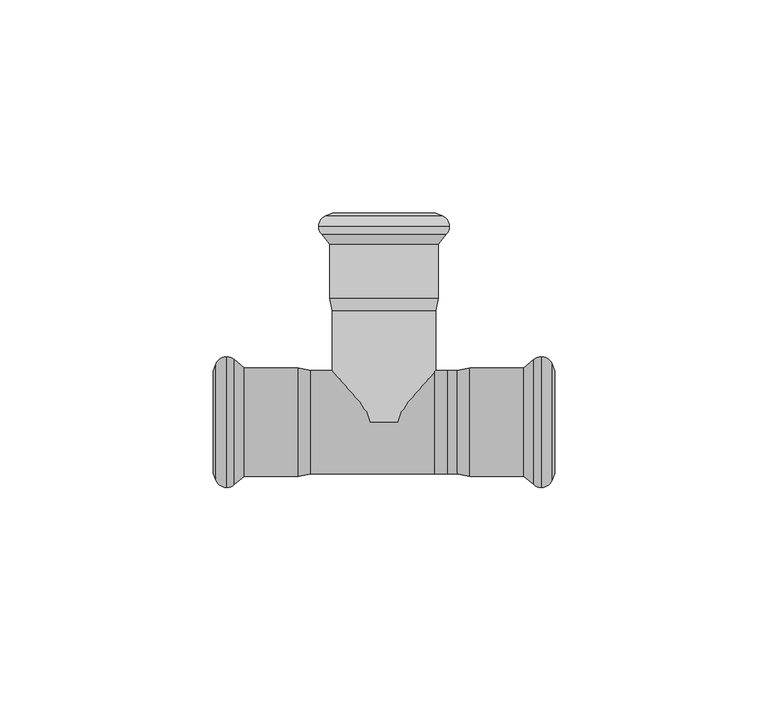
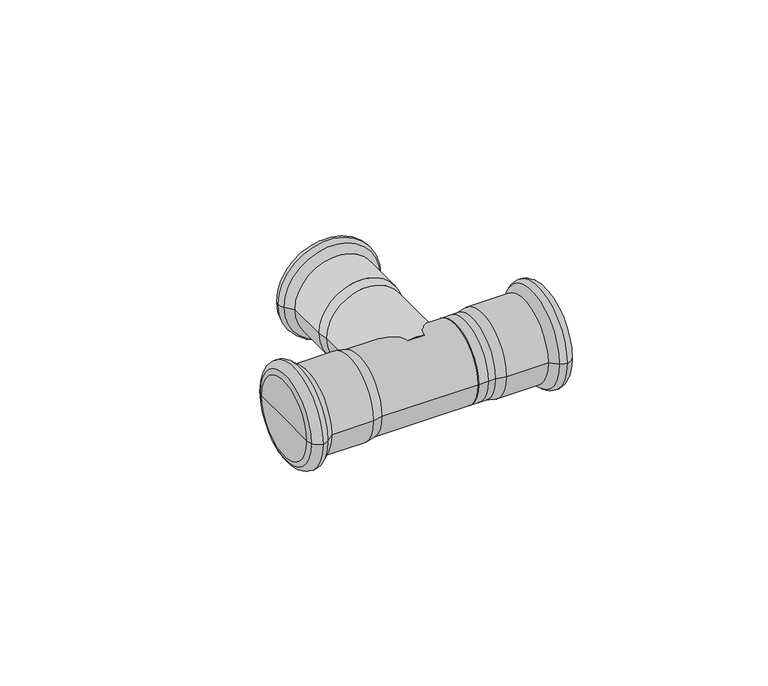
"""IFC4 building model written with IfcOpenShell, lengths in millimetres: pipe fitting geometry, KAN-therm Steel trójnik : KAN-therm Steel trójnik."""

from ifc_helpers import new_model, si_unit, point, frame, origin, place, context, project, spatial, polyline, circle_curve, ellipse_curve, trimmed, source, transform, mapped, element, save
from ifc_brep_helpers import plane_surface, cylinder_surface, revolved_surface, advanced_brep


def pipe_fitting_3d17be56(model_context):
    return source(origin(), model_context, "Body", "AdvancedBrep", [
        advanced_brep(
        [(35.0922627, -14.6370225, 0.0), (35.0922627, 14.6370225, 0.0), (36.8921278, 15.325, 0.0), (36.8921278, -15.325, 0.0), (32.7838092, -12.7, 0.0), (32.7838092, 12.7, 0.0), (20.1180407, -12.7, 0.0), (20.1180407, 12.7, 0.0), (17.2, -12.1, 0.0), (17.2, 12.1, 0.0), (14.95, -12.1, 0.0), (14.95, 12.1, 0.0), (11.95, 0.0, 0.0), (11.95, 12.1, 0.0), (11.95, -12.1, 0.0), (40.0, -11.9880302, 0.0), (40.0, 11.9880302, 0.0), (40.0, 0.0, 0.0), (39.432052, -13.5484544, 0.0), (39.432052, 13.5484544, 0.0)],
        [
            (0, 1, circle_curve(frame((35.0922627, 0.0, 0.0), z_axis=(1.0, 0.0, 0.0), x_axis=(0.0, 1.0, 0.0)), 14.6370225)),
            (1, 2, circle_curve(frame((36.8935049, 12.6230333, 0.0), z_axis=(0.0, 0.0, -1.0), x_axis=(1.0, 0.0, 0.0)), 2.701967)),
            (2, 3, circle_curve(frame((36.8921278, 0.0, 0.0), z_axis=(-1.0, 0.0, 0.0), x_axis=(0.0, 1.0, 0.0)), 15.325)),
            (3, 0, circle_curve(frame((36.8935049, -12.6230333, 0.0), z_axis=(0.0, 0.0, -1.0), x_axis=(1.0, 0.0, 0.0)), 2.701967)),
            (1, 0, circle_curve(frame((35.0922627, 0.0, 0.0), z_axis=(1.0, 0.0, 0.0), x_axis=(0.0, 1.0, 0.0)), 14.6370225)),
            (3, 2, circle_curve(frame((36.8921278, 0.0, 0.0), z_axis=(-1.0, 0.0, 0.0), x_axis=(0.0, 1.0, 0.0)), 15.325)),
            (4, 5, circle_curve(frame((32.7838092, 0.0, 0.0), z_axis=(1.0, 0.0, 0.0), x_axis=(0.0, 1.0, 0.0)), 12.7)),
            (5, 1),
            (0, 4),
            (5, 4, circle_curve(frame((32.7838092, 0.0, 0.0), z_axis=(1.0, 0.0, 0.0), x_axis=(0.0, 1.0, 0.0)), 12.7)),
            (6, 7, circle_curve(frame((20.1180407, 0.0, 0.0), z_axis=(1.0, 0.0, 0.0), x_axis=(0.0, 1.0, 0.0)), 12.7)),
            (7, 5),
            (4, 6),
            (7, 6, circle_curve(frame((20.1180407, 0.0, 0.0), z_axis=(1.0, 0.0, 0.0), x_axis=(0.0, 1.0, 0.0)), 12.7)),
            (8, 9, circle_curve(frame((17.2, 0.0, 0.0), z_axis=(1.0, 0.0, 0.0), x_axis=(0.0, 1.0, 0.0)), 12.1)),
            (9, 7),
            (6, 8),
            (9, 8, circle_curve(frame((17.2, 0.0, 0.0), z_axis=(1.0, 0.0, 0.0), x_axis=(0.0, 1.0, 0.0)), 12.1)),
            (10, 11, circle_curve(frame((14.95, 0.0, 0.0), z_axis=(1.0, 0.0, 0.0), x_axis=(0.0, 1.0, 0.0)), 12.1)),
            (11, 9),
            (8, 10),
            (11, 10, circle_curve(frame((14.95, 0.0, 0.0), z_axis=(1.0, 0.0, 0.0), x_axis=(0.0, 1.0, 0.0)), 12.1)),
            (12, 13),
            (13, 14, circle_curve(frame((11.95, 0.0, 0.0), z_axis=(-1.0, 0.0, 0.0), x_axis=(0.0, 1.0, 0.0)), 12.1)),
            (14, 12),
            (14, 13, circle_curve(frame((11.95, 0.0, 0.0), z_axis=(-1.0, 0.0, 0.0), x_axis=(0.0, 1.0, 0.0)), 12.1)),
            (15, 16, circle_curve(frame((40.0, 0.0, 0.0), z_axis=(1.0, 0.0, 0.0), x_axis=(0.0, 1.0, 0.0)), 11.9880302)),
            (16, 17),
            (17, 15),
            (16, 15, circle_curve(frame((40.0, 0.0, 0.0), z_axis=(1.0, 0.0, 0.0), x_axis=(0.0, 1.0, 0.0)), 11.9880302)),
            (18, 19, circle_curve(frame((39.432052, 0.0, 0.0), z_axis=(1.0, 0.0, 0.0), x_axis=(0.0, 1.0, 0.0)), 13.5484544)),
            (19, 16),
            (15, 18),
            (19, 18, circle_curve(frame((39.432052, 0.0, 0.0), z_axis=(1.0, 0.0, 0.0), x_axis=(0.0, 1.0, 0.0)), 13.5484544)),
            (2, 19, circle_curve(frame((36.89488, 12.6249993, 0.0), z_axis=(0.0, 0.0, -1.0), x_axis=(1.0, 0.0, 0.0)), 2.7000021)),
            (18, 3, circle_curve(frame((36.89488, -12.6249993, 0.0), z_axis=(0.0, 0.0, -1.0), x_axis=(1.0, 0.0, 0.0)), 2.7000021)),
            (13, 11),
            (10, 14),
        ],
        [
            revolved_surface(trimmed(ellipse_curve(frame((36.8935049, 12.6230333, 0.0), z_axis=(0.0, 0.0, 1.0), x_axis=(1.0, 0.0, 0.0)), 2.701967, 2.701967), [point((36.8921278, 15.325, 0.0))], [point((35.0922627, 14.6370225, 0.0))], True, "CARTESIAN"), (1993.0, 0.0, 0.0), (-1.0, 0.0, 0.0)),
            revolved_surface(polyline([(35.0922627, 14.6370225, 0.0), (32.7838092, 12.7, 0.0)]), (1993.0, 0.0, 0.0), (-1.0, 0.0, 0.0)),
            cylinder_surface(frame((1993.0, 0.0, 0.0), z_axis=(-1.0, 0.0, 0.0), x_axis=(0.0, 1.0, 0.0)), 12.7),
            revolved_surface(polyline([(20.1180407, 12.7, 0.0), (17.2, 12.1, 0.0)]), (1993.0, 0.0, 0.0), (-1.0, 0.0, 0.0)),
            cylinder_surface(frame((1993.0, 0.0, 0.0), z_axis=(-1.0, 0.0, 0.0), x_axis=(0.0, 1.0, 0.0)), 12.1),
            plane_surface(frame((11.95, 0.0, 0.0), z_axis=(-1.0, 0.0, 0.0), x_axis=(0.0, 1.0, 0.0))),
            plane_surface(frame((40.0, 0.0, 0.0), z_axis=(1.0, 0.0, 0.0), x_axis=(0.0, 1.0, 0.0))),
            revolved_surface(polyline([(40.0, 11.9880302, 0.0), (39.432052, 13.5484544, 0.0)]), (1993.0, 0.0, 0.0), (-1.0, 0.0, 0.0)),
            revolved_surface(trimmed(ellipse_curve(frame((36.89488, 12.6249993, 0.0), z_axis=(0.0, 0.0, 1.0), x_axis=(1.0, 0.0, 0.0)), 2.7000021, 2.7000021), [point((39.432052, 13.5484544, 0.0))], [point((36.8921278, 15.325, 0.0))], True, "CARTESIAN"), (1993.0, 0.0, 0.0), (-1.0, 0.0, 0.0)),
        ],
        [
            (0, [[1, 2, 3, 4]]),
            (0, [[5, -4, 6, -2]]),
            (1, [[7, 8, -1, 9]]),
            (1, [[10, -9, -5, -8]]),
            (2, [[11, 12, -7, 13]]),
            (2, [[14, -13, -10, -12]]),
            (3, [[15, 16, -11, 17]]),
            (3, [[18, -17, -14, -16]]),
            (4, [[19, 20, -15, 21]]),
            (4, [[22, -21, -18, -20]]),
            (5, [[23, 24, 25]]),
            (5, [[-25, 26, -23]]),
            (6, [[27, 28, 29]]),
            (6, [[30, -29, -28]]),
            (7, [[31, 32, -27, 33]]),
            (7, [[34, -33, -30, -32]]),
            (8, [[-3, 35, -31, 36]]),
            (8, [[-6, -36, -34, -35]]),
            (4, [[-24, 37, -19, 38]]),
            (4, [[-26, -38, -22, -37]]),
        ],
    ),
        advanced_brep(
        [(14.6370225, 44.0922627, 0.0), (-14.6370225, 44.0922627, 0.0), (-15.325, 45.8921278, 0.0), (15.325, 45.8921278, 0.0), (12.7, 41.7838092, 0.0), (-12.7, 41.7838092, 0.0), (12.7, 29.1180407, 0.0), (-12.7, 29.1180407, 0.0), (11.9880302, 49.0, 0.0), (-11.9880302, 49.0, 0.0), (0.0, 49.0, 0.0), (13.5484544, 48.432052, 0.0), (-13.5484544, 48.432052, 0.0), (12.1, 26.2, 0.0), (-12.1, 26.2, 0.0), (12.1, 0.0, 0.0), (-12.1, 0.0, 0.0), (0.0, 0.0, 0.0)],
        [
            (0, 1, circle_curve(frame((0.0, 44.0922627, 0.0), z_axis=(0.0, 1.0, 0.0), x_axis=(-1.0, 0.0, 0.0)), 14.6370225)),
            (1, 2, circle_curve(frame((-12.6230333, 45.8935049, 0.0), z_axis=(0.0, 0.0, -1.0), x_axis=(1.0, 0.0, 0.0)), 2.701967)),
            (2, 3, circle_curve(frame((0.0, 45.8921278, 0.0), z_axis=(0.0, -1.0, 0.0), x_axis=(-1.0, 0.0, 0.0)), 15.325)),
            (3, 0, circle_curve(frame((12.6230333, 45.8935049, 0.0), z_axis=(0.0, 0.0, -1.0), x_axis=(-1.0, 0.0, 0.0)), 2.701967)),
            (1, 0, circle_curve(frame((0.0, 44.0922627, 0.0), z_axis=(0.0, 1.0, 0.0), x_axis=(-1.0, 0.0, 0.0)), 14.6370225)),
            (3, 2, circle_curve(frame((0.0, 45.8921278, 0.0), z_axis=(0.0, -1.0, 0.0), x_axis=(-1.0, 0.0, 0.0)), 15.325)),
            (4, 5, circle_curve(frame((0.0, 41.7838092, 0.0), z_axis=(0.0, 1.0, 0.0), x_axis=(-1.0, 0.0, 0.0)), 12.7)),
            (5, 1),
            (0, 4),
            (5, 4, circle_curve(frame((0.0, 41.7838092, 0.0), z_axis=(0.0, 1.0, 0.0), x_axis=(-1.0, 0.0, 0.0)), 12.7)),
            (6, 7, circle_curve(frame((0.0, 29.1180407, 0.0), z_axis=(0.0, 1.0, 0.0), x_axis=(-1.0, 0.0, 0.0)), 12.7)),
            (7, 5),
            (4, 6),
            (7, 6, circle_curve(frame((0.0, 29.1180407, 0.0), z_axis=(0.0, 1.0, 0.0), x_axis=(-1.0, 0.0, 0.0)), 12.7)),
            (8, 9, circle_curve(frame((0.0, 49.0, 0.0), z_axis=(0.0, 1.0, 0.0), x_axis=(-1.0, 0.0, 0.0)), 11.9880302)),
            (9, 10),
            (10, 8),
            (9, 8, circle_curve(frame((0.0, 49.0, 0.0), z_axis=(0.0, 1.0, 0.0), x_axis=(-1.0, 0.0, 0.0)), 11.9880302)),
            (11, 12, circle_curve(frame((0.0, 48.432052, 0.0), z_axis=(0.0, 1.0, 0.0), x_axis=(-1.0, 0.0, 0.0)), 13.5484544)),
            (12, 9),
            (8, 11),
            (12, 11, circle_curve(frame((0.0, 48.432052, 0.0), z_axis=(0.0, 1.0, 0.0), x_axis=(-1.0, 0.0, 0.0)), 13.5484544)),
            (2, 12, circle_curve(frame((-12.6249993, 45.89488, 0.0), z_axis=(0.0, 0.0, -1.0), x_axis=(1.0, 0.0, 0.0)), 2.7000021)),
            (11, 3, circle_curve(frame((12.6249993, 45.89488, 0.0), z_axis=(0.0, 0.0, -1.0), x_axis=(-1.0, 0.0, 0.0)), 2.7000021)),
            (13, 14, circle_curve(frame((0.0, 26.2, 0.0), z_axis=(0.0, 1.0, 0.0), x_axis=(-1.0, 0.0, 0.0)), 12.1)),
            (14, 7),
            (6, 13),
            (14, 13, circle_curve(frame((0.0, 26.2, 0.0), z_axis=(0.0, 1.0, 0.0), x_axis=(-1.0, 0.0, 0.0)), 12.1)),
            (15, 16, circle_curve(frame((0.0, 0.0, 0.0), z_axis=(0.0, 1.0, 0.0), x_axis=(-1.0, 0.0, 0.0)), 12.1)),
            (16, 14),
            (13, 15),
            (16, 15, circle_curve(frame((0.0, 0.0, 0.0), z_axis=(0.0, 1.0, 0.0), x_axis=(-1.0, 0.0, 0.0)), 12.1)),
            (17, 16),
            (15, 17),
        ],
        [
            revolved_surface(trimmed(ellipse_curve(frame((-12.6230333, 45.8935049, 0.0), z_axis=(0.0, 0.0, 1.0), x_axis=(1.0, 0.0, 0.0)), 2.701967, 2.701967), [point((-15.325, 45.8921278, 0.0))], [point((-14.6370225, 44.0922627, 0.0))], True, "CARTESIAN"), (0.0, 2010.0, 0.0), (0.0, -1.0, 0.0)),
            revolved_surface(polyline([(-14.6370225, 44.0922627, 0.0), (-12.7, 41.7838092, 0.0)]), (0.0, 2010.0, 0.0), (0.0, -1.0, 0.0)),
            cylinder_surface(frame((0.0, 2010.0, 0.0), z_axis=(0.0, -1.0, 0.0), x_axis=(-1.0, 0.0, 0.0)), 12.7),
            plane_surface(frame((0.0, 49.0, 0.0), z_axis=(0.0, 1.0, 0.0), x_axis=(-1.0, 0.0, 0.0))),
            revolved_surface(polyline([(-11.9880302, 49.0, 0.0), (-13.5484544, 48.432052, 0.0)]), (0.0, 2010.0, 0.0), (0.0, -1.0, 0.0)),
            revolved_surface(trimmed(ellipse_curve(frame((-12.6249993, 45.89488, 0.0), z_axis=(0.0, 0.0, 1.0), x_axis=(1.0, 0.0, 0.0)), 2.7000021, 2.7000021), [point((-13.5484544, 48.432052, 0.0))], [point((-15.325, 45.8921278, 0.0))], True, "CARTESIAN"), (0.0, 2010.0, 0.0), (0.0, -1.0, 0.0)),
            revolved_surface(polyline([(-12.7, 29.1180407, 0.0), (-12.1, 26.2, 0.0)]), (0.0, 2010.0, 0.0), (0.0, -1.0, 0.0)),
            cylinder_surface(frame((0.0, 2010.0, 0.0), z_axis=(0.0, -1.0, 0.0), x_axis=(-1.0, 0.0, 0.0)), 12.1),
            plane_surface(frame((0.0, 0.0, 0.0), z_axis=(0.0, -1.0, 0.0), x_axis=(-1.0, 0.0, 0.0))),
        ],
        [
            (0, [[1, 2, 3, 4]]),
            (0, [[5, -4, 6, -2]]),
            (1, [[7, 8, -1, 9]]),
            (1, [[10, -9, -5, -8]]),
            (2, [[11, 12, -7, 13]]),
            (2, [[14, -13, -10, -12]]),
            (3, [[15, 16, 17]]),
            (3, [[18, -17, -16]]),
            (4, [[19, 20, -15, 21]]),
            (4, [[22, -21, -18, -20]]),
            (5, [[-3, 23, -19, 24]]),
            (5, [[-6, -24, -22, -23]]),
            (6, [[25, 26, -11, 27]]),
            (6, [[28, -27, -14, -26]]),
            (7, [[29, 30, -25, 31]]),
            (7, [[32, -31, -28, -30]]),
            (8, [[33, -29, 34]]),
            (8, [[-34, -32, -33]]),
        ],
    ),
        advanced_brep(
        [(-17.2, -12.1, 0.0), (-17.2, 12.1, 0.0), (11.95, 12.1, 0.0), (11.95, -12.1, 0.0), (-20.1180407, -12.7, 0.0), (-20.1180407, 12.7, 0.0), (-32.7838092, -12.7, 0.0), (-32.7838092, 12.7, 0.0), (-35.0922627, -14.6370225, 0.0), (-35.0922627, 14.6370225, 0.0), (-36.8921278, -15.325, 0.0), (-36.8921278, 15.325, 0.0), (-39.432052, -13.5484544, 0.0), (-39.432052, 13.5484544, 0.0), (-40.0, -11.9880302, 0.0), (-40.0, 11.9880302, 0.0), (-40.0, 0.0, 0.0), (11.95, 0.0, 0.0)],
        [
            (0, 1, circle_curve(frame((-17.2, 0.0, 0.0), z_axis=(1.0, 0.0, 0.0), x_axis=(0.0, 1.0, 0.0)), 12.1)),
            (1, 2),
            (2, 3, circle_curve(frame((11.95, 0.0, 0.0), z_axis=(-1.0, 0.0, 0.0), x_axis=(0.0, 1.0, 0.0)), 12.1)),
            (3, 0),
            (1, 0, circle_curve(frame((-17.2, 0.0, 0.0), z_axis=(1.0, 0.0, 0.0), x_axis=(0.0, 1.0, 0.0)), 12.1)),
            (3, 2, circle_curve(frame((11.95, 0.0, 0.0), z_axis=(-1.0, 0.0, 0.0), x_axis=(0.0, 1.0, 0.0)), 12.1)),
            (4, 5, circle_curve(frame((-20.1180407, 0.0, 0.0), z_axis=(1.0, 0.0, 0.0), x_axis=(0.0, 1.0, 0.0)), 12.7)),
            (5, 1),
            (0, 4),
            (5, 4, circle_curve(frame((-20.1180407, 0.0, 0.0), z_axis=(1.0, 0.0, 0.0), x_axis=(0.0, 1.0, 0.0)), 12.7)),
            (6, 7, circle_curve(frame((-32.7838092, 0.0, 0.0), z_axis=(1.0, 0.0, 0.0), x_axis=(0.0, 1.0, 0.0)), 12.7)),
            (7, 5),
            (4, 6),
            (7, 6, circle_curve(frame((-32.7838092, 0.0, 0.0), z_axis=(1.0, 0.0, 0.0), x_axis=(0.0, 1.0, 0.0)), 12.7)),
            (8, 9, circle_curve(frame((-35.0922627, 0.0, 0.0), z_axis=(1.0, 0.0, 0.0), x_axis=(0.0, 1.0, 0.0)), 14.6370225)),
            (9, 7),
            (6, 8),
            (9, 8, circle_curve(frame((-35.0922627, 0.0, 0.0), z_axis=(1.0, 0.0, 0.0), x_axis=(0.0, 1.0, 0.0)), 14.6370225)),
            (10, 11, circle_curve(frame((-36.8921278, 0.0, 0.0), z_axis=(1.0, 0.0, 0.0), x_axis=(0.0, 1.0, 0.0)), 15.325)),
            (11, 9, circle_curve(frame((-36.8935049, 12.6230333, 0.0), z_axis=(0.0, 0.0, -1.0), x_axis=(1.0, 0.0, 0.0)), 2.701967)),
            (8, 10, circle_curve(frame((-36.8935049, -12.6230333, 0.0), z_axis=(0.0, 0.0, -1.0), x_axis=(1.0, 0.0, 0.0)), 2.701967)),
            (11, 10, circle_curve(frame((-36.8921278, 0.0, 0.0), z_axis=(1.0, 0.0, 0.0), x_axis=(0.0, 1.0, 0.0)), 15.325)),
            (12, 13, circle_curve(frame((-39.432052, 0.0, 0.0), z_axis=(1.0, 0.0, 0.0), x_axis=(0.0, 1.0, 0.0)), 13.5484544)),
            (13, 11, circle_curve(frame((-36.89488, 12.6249993, 0.0), z_axis=(0.0, 0.0, -1.0), x_axis=(1.0, 0.0, 0.0)), 2.7000021)),
            (10, 12, circle_curve(frame((-36.89488, -12.6249993, 0.0), z_axis=(0.0, 0.0, -1.0), x_axis=(1.0, 0.0, 0.0)), 2.7000021)),
            (13, 12, circle_curve(frame((-39.432052, 0.0, 0.0), z_axis=(1.0, 0.0, 0.0), x_axis=(0.0, 1.0, 0.0)), 13.5484544)),
            (14, 15, circle_curve(frame((-40.0, 0.0, 0.0), z_axis=(1.0, 0.0, 0.0), x_axis=(0.0, 1.0, 0.0)), 11.9880302)),
            (15, 13),
            (12, 14),
            (15, 14, circle_curve(frame((-40.0, 0.0, 0.0), z_axis=(1.0, 0.0, 0.0), x_axis=(0.0, 1.0, 0.0)), 11.9880302)),
            (16, 15),
            (14, 16),
            (2, 17),
            (17, 3),
        ],
        [
            cylinder_surface(frame((7.1, 0.0, 0.0), z_axis=(-1.0, 0.0, 0.0), x_axis=(0.0, 1.0, 0.0)), 12.1),
            revolved_surface(polyline([(-17.2, 12.1, 0.0), (-20.1180407, 12.7, 0.0)]), (7.1, 0.0, 0.0), (-1.0, 0.0, 0.0)),
            cylinder_surface(frame((7.1, 0.0, 0.0), z_axis=(-1.0, 0.0, 0.0), x_axis=(0.0, 1.0, 0.0)), 12.7),
            revolved_surface(polyline([(-32.7838092, 12.7, 0.0), (-35.0922627, 14.6370225, 0.0)]), (7.1, 0.0, 0.0), (-1.0, 0.0, 0.0)),
            revolved_surface(trimmed(ellipse_curve(frame((-36.8935049, 12.6230333, 0.0), z_axis=(0.0, 0.0, 1.0), x_axis=(1.0, 0.0, 0.0)), 2.701967, 2.701967), [point((-35.0922627, 14.6370225, 0.0))], [point((-36.8921278, 15.325, 0.0))], True, "CARTESIAN"), (7.1, 0.0, 0.0), (-1.0, 0.0, 0.0)),
            revolved_surface(trimmed(ellipse_curve(frame((-36.89488, 12.6249993, 0.0), z_axis=(0.0, 0.0, 1.0), x_axis=(1.0, 0.0, 0.0)), 2.7000021, 2.7000021), [point((-36.8921278, 15.325, 0.0))], [point((-39.432052, 13.5484544, 0.0))], True, "CARTESIAN"), (7.1, 0.0, 0.0), (-1.0, 0.0, 0.0)),
            revolved_surface(polyline([(-39.432052, 13.5484544, 0.0), (-40.0, 11.9880302, 0.0)]), (7.1, 0.0, 0.0), (-1.0, 0.0, 0.0)),
            plane_surface(frame((-40.0, 0.0, 0.0), z_axis=(-1.0, 0.0, 0.0), x_axis=(0.0, 1.0, 0.0))),
            plane_surface(frame((11.95, 0.0, 0.0), z_axis=(1.0, 0.0, 0.0), x_axis=(0.0, 1.0, 0.0))),
        ],
        [
            (0, [[1, 2, 3, 4]]),
            (0, [[5, -4, 6, -2]]),
            (1, [[7, 8, -1, 9]]),
            (1, [[10, -9, -5, -8]]),
            (2, [[11, 12, -7, 13]]),
            (2, [[14, -13, -10, -12]]),
            (3, [[15, 16, -11, 17]]),
            (3, [[18, -17, -14, -16]]),
            (4, [[19, 20, -15, 21]]),
            (4, [[22, -21, -18, -20]]),
            (5, [[23, 24, -19, 25]]),
            (5, [[26, -25, -22, -24]]),
            (6, [[27, 28, -23, 29]]),
            (6, [[30, -29, -26, -28]]),
            (7, [[31, -27, 32]]),
            (7, [[-32, -30, -31]]),
            (8, [[-3, 33, 34]]),
            (8, [[-6, -34, -33]]),
        ],
    ),
    ])


if __name__ == "__main__":
    model = new_model("IFC4")
    model_context = context("Model", 3, world=origin())
    ifc_project = project(units=[si_unit("LENGTHUNIT", "METRE", prefix="MILLI")], contexts=[model_context])
    site = spatial("IfcSite", under=ifc_project)
    building = spatial("IfcBuilding", under=site)
    placement = place(None, origin())
    pipe_fitting_shape = pipe_fitting_3d17be56(model_context)
    element("IfcPipeFitting", 1, ObjectType="KAN-therm Steel trójnik : KAN-therm Steel trójnik", at=placement, inside=building, context=model_context, shape_type="MappedRepresentation", body=[
        mapped(pipe_fitting_shape, transform((0.0, 0.0, 0.0), x_axis=(1.0, 0.0, 0.0), y_axis=(0.0, 1.0, 0.0), z_axis=(0.0, 0.0, 1.0))),
    ])
    save(model, "model.ifc")
